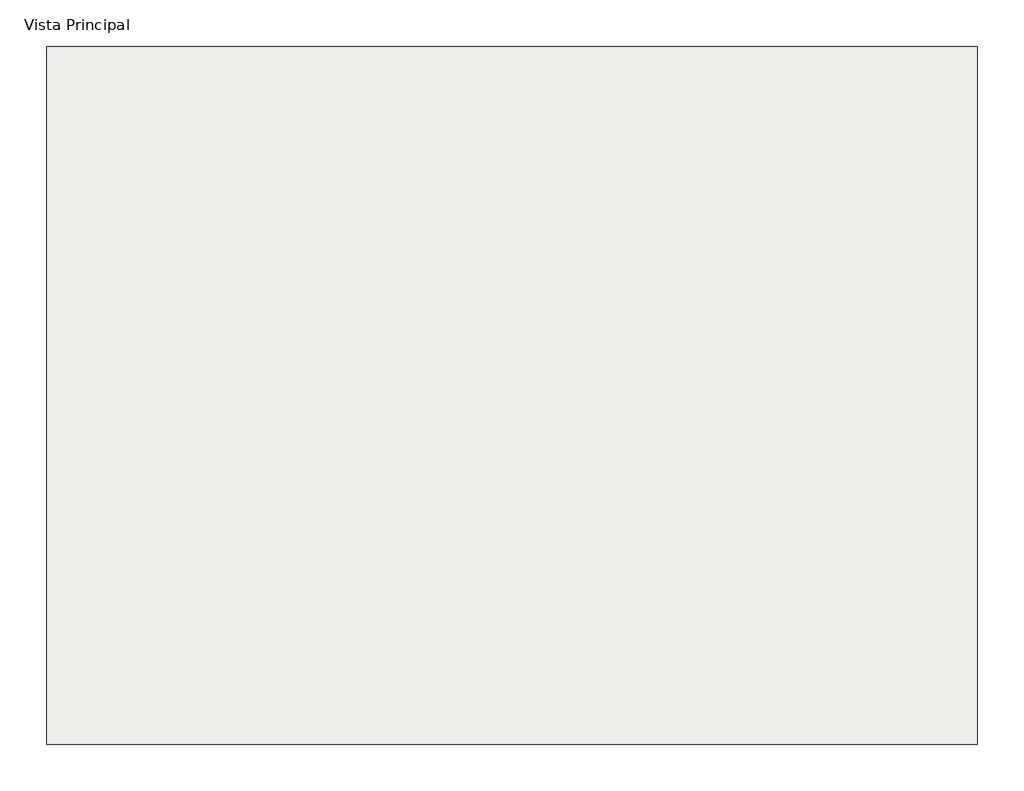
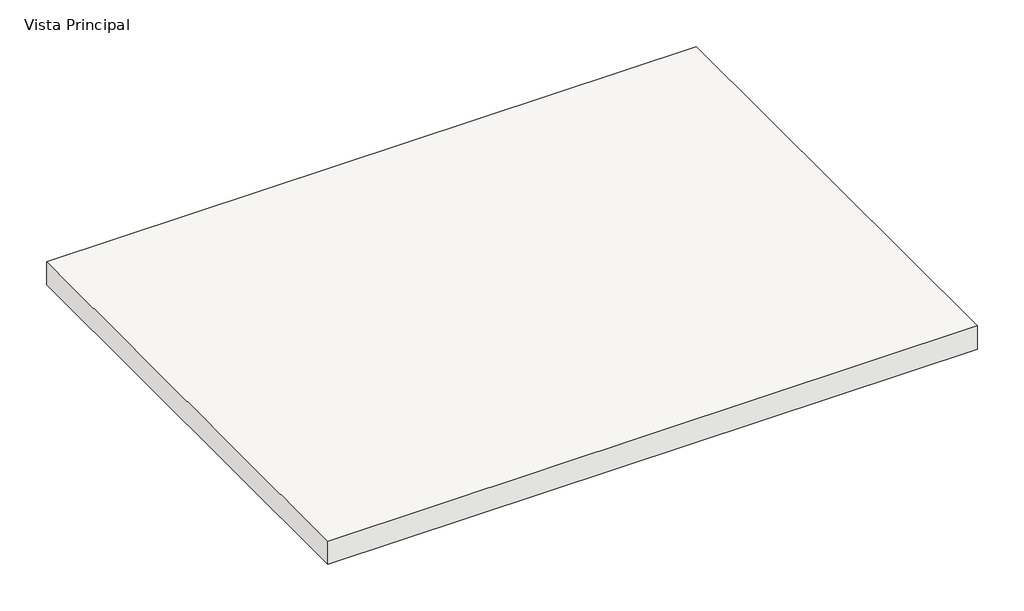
# One storey: 1 slab.
"""IFC4 building model written with IfcOpenShell, lengths in millimetres."""

from ifc_helpers import new_model, si_unit, frame, origin, place, context, project, spatial, polyline, outline, extrude, element, save

model = new_model("IFC4")

# Units and contexts
model_context = context("Model", 3, world=origin())
ifc_project = project(units=[si_unit("LENGTHUNIT", "METRE", prefix="MILLI")], contexts=[model_context])

# Site, building, storey
site = spatial("IfcSite", under=ifc_project)
building = spatial("IfcBuilding", under=site)
storey = spatial("IfcBuildingStorey", under=building, Name="Vista Principal", Elevation=0.0)

# Slab
placement = place(None, origin())
element("IfcSlab", 1, ObjectType="Genérico 150 mm", at=placement, inside=storey, context=model_context, shape_type="SweptSolid", body=[
    extrude(outline(polyline([(2116.7873367, 2093.3756181), (2116.7873367, -906.6243819), (-1883.2126633, -906.6243819), (-1883.2126633, 2093.3756181), (2116.7873367, 2093.3756181)])), frame((0.0, 0.0, -150.0), z_axis=(0.0, 0.0, 1.0), x_axis=(1.0, 0.0, 0.0)), (0.0, 0.0, 1.0), 150.0),
])

save(model, "model.ifc")
